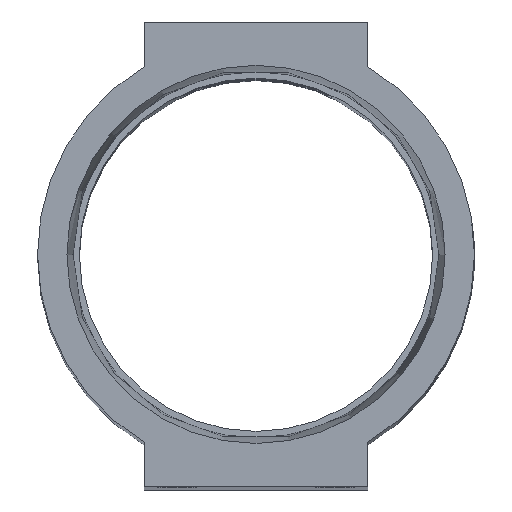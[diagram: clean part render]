
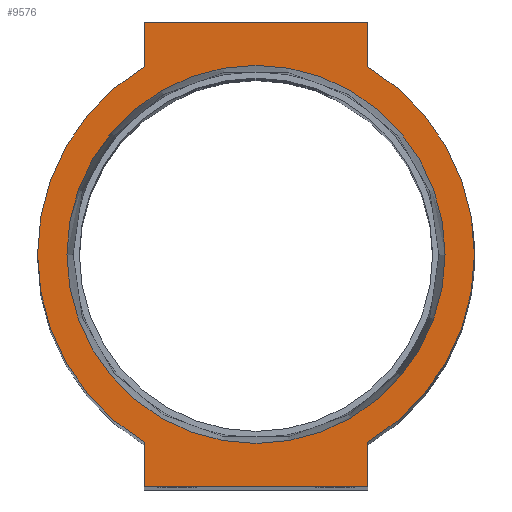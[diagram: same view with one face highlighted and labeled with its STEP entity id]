
A CAD part, top view. The second image highlights one B-rep face of the part: STEP entity #9576.
In plain terms, the highlighted planar face has unit normal (0, 0, 1).
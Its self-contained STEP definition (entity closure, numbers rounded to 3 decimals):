
#74 = LINE ( 'NONE', #10388, #4619 ) ;
#143 = LINE ( 'NONE', #2006, #7422 ) ;
#475 = ORIENTED_EDGE ( 'NONE', *, *, #11103, .T. ) ;
#484 = VERTEX_POINT ( 'NONE', #10715 ) ;
#547 = FACE_BOUND ( 'NONE', #690, .T. ) ;
#631 = CIRCLE ( 'NONE', #4592, 23.5 ) ;
#641 = ORIENTED_EDGE ( 'NONE', *, *, #4728, .T. ) ;
#690 = EDGE_LOOP ( 'NONE', ( #5704, #1865 ) ) ;
#746 = CARTESIAN_POINT ( 'NONE',  ( -12., 25., 0. ) ) ;
#1024 = VECTOR ( 'NONE', #11854, 1000. ) ;
#1083 = EDGE_LOOP ( 'NONE', ( #9209, #5343, #2779, #9887, #10035, #641, #11767, #475, #8861 ) ) ;
#1133 = EDGE_CURVE ( 'NONE', #3073, #484, #10725, .T. ) ;
#1135 = CARTESIAN_POINT ( 'NONE',  ( 0., 0., 0. ) ) ;
#1212 = VERTEX_POINT ( 'NONE', #5687 ) ;
#1334 = CARTESIAN_POINT ( 'NONE',  ( 0., 0., 0. ) ) ;
#1511 = CARTESIAN_POINT ( 'NONE',  ( 20.34, 0., 0. ) ) ;
#1597 = CARTESIAN_POINT ( 'NONE',  ( -12., 20.205, 0. ) ) ;
#1865 = ORIENTED_EDGE ( 'NONE', *, *, #6571, .F. ) ;
#2006 = CARTESIAN_POINT ( 'NONE',  ( 12., 25., 0. ) ) ;
#2076 = AXIS2_PLACEMENT_3D ( 'NONE', #11569, #7493, #3772 ) ;
#2277 = CARTESIAN_POINT ( 'NONE',  ( -12., -25., 0. ) ) ;
#2418 = LINE ( 'NONE', #3398, #5600 ) ;
#2421 = LINE ( 'NONE', #746, #1024 ) ;
#2466 = AXIS2_PLACEMENT_3D ( 'NONE', #4716, #10181, #12097 ) ;
#2482 = AXIS2_PLACEMENT_3D ( 'NONE', #1135, #11284, #7436 ) ;
#2504 = VERTEX_POINT ( 'NONE', #1597 ) ;
#2777 = DIRECTION ( 'NONE',  ( 0., 0., 1. ) ) ;
#2779 = ORIENTED_EDGE ( 'NONE', *, *, #11247, .T. ) ;
#3056 = CARTESIAN_POINT ( 'NONE',  ( 12., 20.205, 0. ) ) ;
#3073 = VERTEX_POINT ( 'NONE', #9225 ) ;
#3081 = EDGE_CURVE ( 'NONE', #7464, #5251, #2421, .T. ) ;
#3145 = CARTESIAN_POINT ( 'NONE',  ( -12., 25., 0. ) ) ;
#3398 = CARTESIAN_POINT ( 'NONE',  ( -12., -25., 0. ) ) ;
#3489 = VECTOR ( 'NONE', #8088, 1000. ) ;
#3669 = LINE ( 'NONE', #3727, #5101 ) ;
#3727 = CARTESIAN_POINT ( 'NONE',  ( 12., -25., 0. ) ) ;
#3772 = DIRECTION ( 'NONE',  ( 1., 0., 0. ) ) ;
#3807 = EDGE_CURVE ( 'NONE', #6270, #7464, #143, .T. ) ;
#3817 = VERTEX_POINT ( 'NONE', #3983 ) ;
#3983 = CARTESIAN_POINT ( 'NONE',  ( 23.5, 0., 0. ) ) ;
#4592 = AXIS2_PLACEMENT_3D ( 'NONE', #1334, #6173, #10907 ) ;
#4619 = VECTOR ( 'NONE', #5121, 1000. ) ;
#4716 = CARTESIAN_POINT ( 'NONE',  ( 0., 0., 0. ) ) ;
#4728 = EDGE_CURVE ( 'NONE', #484, #1212, #2418, .T. ) ;
#5101 = VECTOR ( 'NONE', #7451, 1000. ) ;
#5121 = DIRECTION ( 'NONE',  ( 0., -1., 0. ) ) ;
#5251 = VERTEX_POINT ( 'NONE', #3145 ) ;
#5343 = ORIENTED_EDGE ( 'NONE', *, *, #3081, .T. ) ;
#5402 = DIRECTION ( 'NONE',  ( 1., 0., 0. ) ) ;
#5600 = VECTOR ( 'NONE', #5402, 1000. ) ;
#5687 = CARTESIAN_POINT ( 'NONE',  ( 12., -25., 0. ) ) ;
#5704 = ORIENTED_EDGE ( 'NONE', *, *, #7488, .F. ) ;
#5854 = CIRCLE ( 'NONE', #2076, 20.34 ) ;
#6173 = DIRECTION ( 'NONE',  ( 0., 0., 1. ) ) ;
#6270 = VERTEX_POINT ( 'NONE', #3056 ) ;
#6550 = DIRECTION ( 'NONE',  ( 1., 0., 0. ) ) ;
#6571 = EDGE_CURVE ( 'NONE', #12048, #8189, #11904, .T. ) ;
#6601 = DIRECTION ( 'NONE',  ( 0., 1., 0. ) ) ;
#6664 = VERTEX_POINT ( 'NONE', #6848 ) ;
#6848 = CARTESIAN_POINT ( 'NONE',  ( 12., -20.205, 0. ) ) ;
#7334 = DIRECTION ( 'NONE',  ( 1., 0., 0. ) ) ;
#7395 = CIRCLE ( 'NONE', #11694, 23.5 ) ;
#7422 = VECTOR ( 'NONE', #6601, 1000. ) ;
#7436 = DIRECTION ( 'NONE',  ( 1., 0., 0. ) ) ;
#7451 = DIRECTION ( 'NONE',  ( 0., 1., 0. ) ) ;
#7454 = EDGE_CURVE ( 'NONE', #2504, #3073, #10951, .T. ) ;
#7464 = VERTEX_POINT ( 'NONE', #11173 ) ;
#7488 = EDGE_CURVE ( 'NONE', #8189, #12048, #5854, .T. ) ;
#7493 = DIRECTION ( 'NONE',  ( 0., 0., 1. ) ) ;
#7868 = CARTESIAN_POINT ( 'NONE',  ( -20.34, 0., 0. ) ) ;
#8088 = DIRECTION ( 'NONE',  ( 0., -1., 0. ) ) ;
#8189 = VERTEX_POINT ( 'NONE', #1511 ) ;
#8472 = PLANE ( 'NONE',  #2466 ) ;
#8501 = EDGE_CURVE ( 'NONE', #1212, #6664, #3669, .T. ) ;
#8861 = ORIENTED_EDGE ( 'NONE', *, *, #10408, .T. ) ;
#9209 = ORIENTED_EDGE ( 'NONE', *, *, #3807, .T. ) ;
#9225 = CARTESIAN_POINT ( 'NONE',  ( -12., -20.205, 0. ) ) ;
#9291 = DIRECTION ( 'NONE',  ( 0., 0., 1. ) ) ;
#9392 = CARTESIAN_POINT ( 'NONE',  ( 0., 0., 0. ) ) ;
#9397 = FACE_OUTER_BOUND ( 'NONE', #1083, .T. ) ;
#9576 = ADVANCED_FACE ( 'NONE', ( #547, #9397 ), #8472, .T. ) ;
#9887 = ORIENTED_EDGE ( 'NONE', *, *, #7454, .T. ) ;
#10035 = ORIENTED_EDGE ( 'NONE', *, *, #1133, .T. ) ;
#10181 = DIRECTION ( 'NONE',  ( 0., 0., 1. ) ) ;
#10388 = CARTESIAN_POINT ( 'NONE',  ( -12., 25., 0. ) ) ;
#10408 = EDGE_CURVE ( 'NONE', #3817, #6270, #631, .T. ) ;
#10715 = CARTESIAN_POINT ( 'NONE',  ( -12., -25., 0. ) ) ;
#10725 = LINE ( 'NONE', #2277, #3489 ) ;
#10907 = DIRECTION ( 'NONE',  ( 1., 0., 0. ) ) ;
#10951 = CIRCLE ( 'NONE', #2482, 23.5 ) ;
#11103 = EDGE_CURVE ( 'NONE', #6664, #3817, #7395, .T. ) ;
#11173 = CARTESIAN_POINT ( 'NONE',  ( 12., 25., 0. ) ) ;
#11196 = CARTESIAN_POINT ( 'NONE',  ( 0., 0., 0. ) ) ;
#11247 = EDGE_CURVE ( 'NONE', #5251, #2504, #74, .T. ) ;
#11284 = DIRECTION ( 'NONE',  ( 0., 0., 1. ) ) ;
#11507 = AXIS2_PLACEMENT_3D ( 'NONE', #9392, #2777, #6550 ) ;
#11569 = CARTESIAN_POINT ( 'NONE',  ( 0., 0., 0. ) ) ;
#11694 = AXIS2_PLACEMENT_3D ( 'NONE', #11196, #9291, #7334 ) ;
#11767 = ORIENTED_EDGE ( 'NONE', *, *, #8501, .T. ) ;
#11854 = DIRECTION ( 'NONE',  ( -1., 0., 0. ) ) ;
#11904 = CIRCLE ( 'NONE', #11507, 20.34 ) ;
#12048 = VERTEX_POINT ( 'NONE', #7868 ) ;
#12097 = DIRECTION ( 'NONE',  ( 1., 0., 0. ) ) ;
